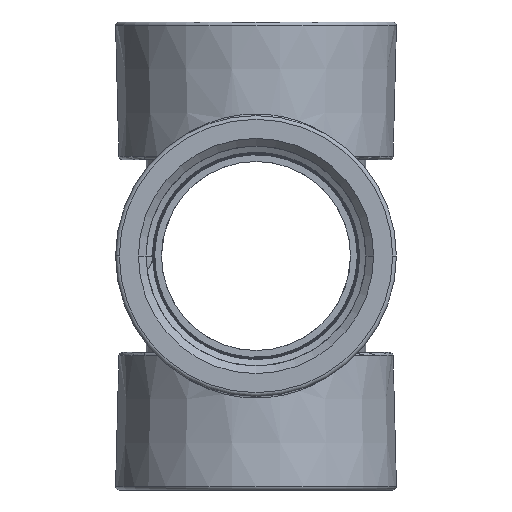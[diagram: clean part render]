
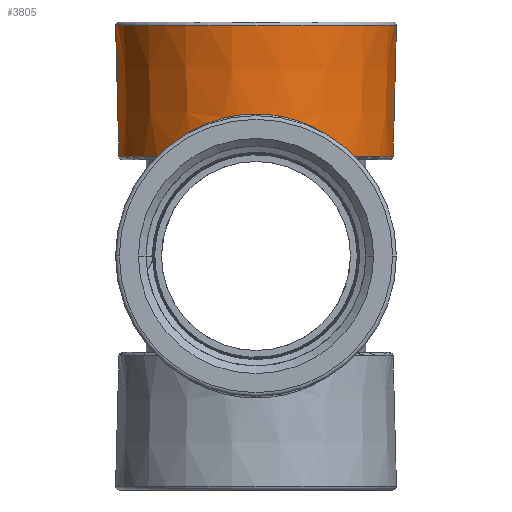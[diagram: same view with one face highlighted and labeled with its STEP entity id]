
A CAD part, left-side view. The second image highlights one B-rep face of the part: STEP entity #3805.
In plain terms, the highlighted conical face has half-angle 1.463 degrees and reference radius 37.301 mm.
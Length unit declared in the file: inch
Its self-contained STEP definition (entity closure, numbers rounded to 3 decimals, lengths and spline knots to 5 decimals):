
#505=B_SPLINE_CURVE_WITH_KNOTS('',3,(#69694,#69695,#69696,#69697,#69698,
#69699,#69700,#69701,#69702,#69703,#69704,#69705,#69706),.UNSPECIFIED.,
 .F.,.U.,(4,3,3,3,4),(0.,0.2,0.45965,0.91463,1.),
 .UNSPECIFIED.);
#506=B_SPLINE_CURVE_WITH_KNOTS('',3,(#69709,#69710,#69711,#69712,#69713,
#69714,#69715,#69716,#69717,#69718,#69719,#69720,#69721,#69722,#69723,#69724,
#69725,#69726,#69727,#69728,#69729,#69730,#69731,#69732,#69733,#69734,#69735,
#69736,#69737,#69738,#69739,#69740,#69741,#69742,#69743,#69744,#69745),
 .UNSPECIFIED.,.F.,.U.,(4,3,3,3,3,3,3,3,3,3,3,3,4),(0.,0.11082,
0.19944,0.27502,0.3567,0.43362,
0.50774,0.58027,0.65602,0.7363,
0.80833,0.89411,1.),.UNSPECIFIED.);
#507=B_SPLINE_CURVE_WITH_KNOTS('',3,(#69747,#69748,#69749,#69750,#69751,
#69752,#69753,#69754,#69755,#69756,#69757,#69758,#69759),.UNSPECIFIED.,
 .F.,.U.,(4,3,3,3,4),(0.,0.53277,0.66581,0.83307,
1.),.UNSPECIFIED.);
#685=VECTOR('',#4374,1.);
#686=VECTOR('',#4375,1.);
#804=LINE('',#69763,#685);
#805=LINE('',#69764,#686);
#831=CONICAL_SURFACE('',#3992,1.46855,0.026);
#1176=VERTEX_POINT('',#69688);
#1177=VERTEX_POINT('',#69690);
#1178=VERTEX_POINT('',#69707);
#1179=VERTEX_POINT('',#69708);
#1180=VERTEX_POINT('',#69746);
#1181=VERTEX_POINT('',#69760);
#1182=VERTEX_POINT('',#69762);
#1183=VERTEX_POINT('',#69765);
#1281=CIRCLE('',#3991,1.48617);
#1282=CIRCLE('',#3993,1.45098);
#1283=CIRCLE('',#3994,1.45098);
#1815=EDGE_CURVE('',#1177,#1176,#1281,.T.);
#1816=EDGE_CURVE('',#1178,#1179,#505,.T.);
#1817=EDGE_CURVE('',#1179,#1180,#506,.T.);
#1818=EDGE_CURVE('',#1180,#1181,#507,.T.);
#1819=EDGE_CURVE('',#1181,#1182,#1282,.T.);
#1820=EDGE_CURVE('',#1182,#1176,#804,.T.);
#1821=EDGE_CURVE('',#1183,#1177,#805,.T.);
#1822=EDGE_CURVE('',#1183,#1178,#1283,.T.);
#2836=ORIENTED_EDGE('',*,*,#1816,.T.);
#2837=ORIENTED_EDGE('',*,*,#1817,.T.);
#2838=ORIENTED_EDGE('',*,*,#1818,.T.);
#2839=ORIENTED_EDGE('',*,*,#1819,.T.);
#2840=ORIENTED_EDGE('',*,*,#1820,.T.);
#2841=ORIENTED_EDGE('',*,*,#1815,.F.);
#2842=ORIENTED_EDGE('',*,*,#1821,.F.);
#2843=ORIENTED_EDGE('',*,*,#1822,.T.);
#3317=EDGE_LOOP('',(#2836,#2837,#2838,#2839,#2840,#2841,#2842,#2843));
#3566=FACE_BOUND('',#3317,.T.);
#3805=ADVANCED_FACE('',(#3566),#831,.T.);
#3991=AXIS2_PLACEMENT_3D('',#69692,#4368,#4369);
#3992=AXIS2_PLACEMENT_3D('',#69693,#4370,#4371);
#3993=AXIS2_PLACEMENT_3D('',#69761,#4372,#4373);
#3994=AXIS2_PLACEMENT_3D('',#69766,#4376,#4377);
#4368=DIRECTION('',(0.,0.,1.));
#4369=DIRECTION('',(0.,1.486,0.));
#4370=DIRECTION('',(0.,0.,1.));
#4371=DIRECTION('',(0.,1.469,0.));
#4372=DIRECTION('',(0.,0.,1.));
#4373=DIRECTION('',(0.,1.451,0.));
#4374=DIRECTION('',(0.,-0.026,1.));
#4375=DIRECTION('',(0.,0.026,1.));
#4376=DIRECTION('',(0.,0.,1.));
#4377=DIRECTION('',(0.,1.451,0.));
#69688=CARTESIAN_POINT('',(0.,-1.48617,2.436));
#69690=CARTESIAN_POINT('',(0.,1.48617,2.436));
#69692=CARTESIAN_POINT('',(0.,0.,2.436));
#69693=CARTESIAN_POINT('',(0.,0.,1.74589));
#69694=CARTESIAN_POINT('',(-1.00765,1.04403,1.05805));
#69695=CARTESIAN_POINT('',(-1.00893,1.0428,1.0584));
#69696=CARTESIAN_POINT('',(-1.01025,1.0415,1.05796));
#69697=CARTESIAN_POINT('',(-1.01155,1.04023,1.05787));
#69698=CARTESIAN_POINT('',(-1.01324,1.03859,1.05776));
#69699=CARTESIAN_POINT('',(-1.01492,1.03695,1.05778));
#69700=CARTESIAN_POINT('',(-1.01659,1.0353,1.05758));
#69701=CARTESIAN_POINT('',(-1.01953,1.03241,1.05722));
#69702=CARTESIAN_POINT('',(-1.02243,1.02952,1.05675));
#69703=CARTESIAN_POINT('',(-1.0253,1.02662,1.05612));
#69704=CARTESIAN_POINT('',(-1.02584,1.02608,1.056));
#69705=CARTESIAN_POINT('',(-1.02638,1.02553,1.05589));
#69706=CARTESIAN_POINT('',(-1.02692,1.02499,1.05578));
#69707=CARTESIAN_POINT('',(-1.00765,1.04403,1.05805));
#69708=CARTESIAN_POINT('',(-1.02692,1.02499,1.05578));
#69709=CARTESIAN_POINT('',(-1.02692,1.02499,1.05578));
#69710=CARTESIAN_POINT('',(-1.08031,0.97348,1.1106));
#69711=CARTESIAN_POINT('',(-1.13124,0.9163,1.16286));
#69712=CARTESIAN_POINT('',(-1.17837,0.85332,1.21124));
#69713=CARTESIAN_POINT('',(-1.21606,0.80295,1.24993));
#69714=CARTESIAN_POINT('',(-1.25133,0.74888,1.28614));
#69715=CARTESIAN_POINT('',(-1.2834,0.6911,1.31905));
#69716=CARTESIAN_POINT('',(-1.31074,0.64183,1.34712));
#69717=CARTESIAN_POINT('',(-1.33575,0.58987,1.3728));
#69718=CARTESIAN_POINT('',(-1.35785,0.53542,1.39547));
#69719=CARTESIAN_POINT('',(-1.38172,0.47658,1.41997));
#69720=CARTESIAN_POINT('',(-1.40217,0.41483,1.44096));
#69721=CARTESIAN_POINT('',(-1.41844,0.35086,1.45765));
#69722=CARTESIAN_POINT('',(-1.43375,0.29062,1.47336));
#69723=CARTESIAN_POINT('',(-1.44534,0.22841,1.48526));
#69724=CARTESIAN_POINT('',(-1.45272,0.16518,1.49284));
#69725=CARTESIAN_POINT('',(-1.45984,0.10425,1.50014));
#69726=CARTESIAN_POINT('',(-1.46305,0.04237,1.50343));
#69727=CARTESIAN_POINT('',(-1.4622,-0.01939,1.50257));
#69728=CARTESIAN_POINT('',(-1.46138,-0.07984,1.50172));
#69729=CARTESIAN_POINT('',(-1.45668,-0.14017,1.4969));
#69730=CARTESIAN_POINT('',(-1.4483,-0.19941,1.4883));
#69731=CARTESIAN_POINT('',(-1.43955,-0.26129,1.47932));
#69732=CARTESIAN_POINT('',(-1.42679,-0.32199,1.46622));
#69733=CARTESIAN_POINT('',(-1.41052,-0.38066,1.44952));
#69734=CARTESIAN_POINT('',(-1.39327,-0.44283,1.43182));
#69735=CARTESIAN_POINT('',(-1.37209,-0.50274,1.41008));
#69736=CARTESIAN_POINT('',(-1.3477,-0.55978,1.38505));
#69737=CARTESIAN_POINT('',(-1.32583,-0.61095,1.3626));
#69738=CARTESIAN_POINT('',(-1.30138,-0.65982,1.33751));
#69739=CARTESIAN_POINT('',(-1.27487,-0.70625,1.3103));
#69740=CARTESIAN_POINT('',(-1.24329,-0.76154,1.27788));
#69741=CARTESIAN_POINT('',(-1.20879,-0.81336,1.24246));
#69742=CARTESIAN_POINT('',(-1.17204,-0.86171,1.20474));
#69743=CARTESIAN_POINT('',(-1.12669,-0.92139,1.15819));
#69744=CARTESIAN_POINT('',(-1.07794,-0.97577,1.10816));
#69745=CARTESIAN_POINT('',(-1.02692,-1.02499,1.05578));
#69746=CARTESIAN_POINT('',(-1.02692,-1.02499,1.05578));
#69747=CARTESIAN_POINT('',(-1.02692,-1.02499,1.05578));
#69748=CARTESIAN_POINT('',(-1.02357,-1.02838,1.05658));
#69749=CARTESIAN_POINT('',(-1.02017,-1.03177,1.05714));
#69750=CARTESIAN_POINT('',(-1.01674,-1.03515,1.05756));
#69751=CARTESIAN_POINT('',(-1.01588,-1.036,1.05766));
#69752=CARTESIAN_POINT('',(-1.01502,-1.03684,1.05776));
#69753=CARTESIAN_POINT('',(-1.01416,-1.03769,1.05779));
#69754=CARTESIAN_POINT('',(-1.01308,-1.03875,1.05784));
#69755=CARTESIAN_POINT('',(-1.012,-1.0398,1.05781));
#69756=CARTESIAN_POINT('',(-1.01091,-1.04086,1.05793));
#69757=CARTESIAN_POINT('',(-1.00982,-1.04193,1.05806));
#69758=CARTESIAN_POINT('',(-1.00872,-1.043,1.05834));
#69759=CARTESIAN_POINT('',(-1.00765,-1.04403,1.05805));
#69760=CARTESIAN_POINT('',(-1.00765,-1.04403,1.05805));
#69761=CARTESIAN_POINT('',(0.,0.,1.05805));
#69762=CARTESIAN_POINT('',(0.,-1.45098,1.05805));
#69763=CARTESIAN_POINT('',(0.,-1.45098,1.05805));
#69764=CARTESIAN_POINT('',(0.,1.45098,1.05805));
#69765=CARTESIAN_POINT('',(0.,1.45098,1.05805));
#69766=CARTESIAN_POINT('',(0.,0.,1.05805));
